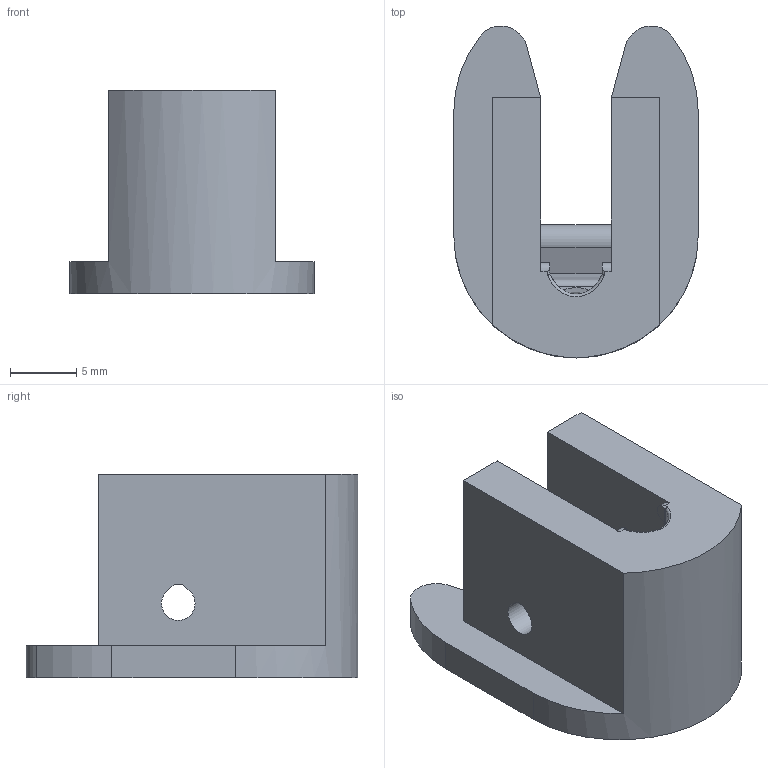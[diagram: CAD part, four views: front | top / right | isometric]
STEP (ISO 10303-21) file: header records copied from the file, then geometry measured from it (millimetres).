
FILE_DESCRIPTION(/* description */ ('STEP AP242','CAx-IF Rec.Pracs.---Representation and Presentation of Product Manufacturing Information (PMI)---4.0---2014-10-13','CAx-IF Rec.Pracs.---3D Tessellated Geometry---0.4---2014-09-14','2;1'),/* implementation_level */ '2;1');
FILE_NAME(/* name */ '61ff082423e0087fa9c7d425',/* time_stamp */ '2022-02-05T23:28:37+00:00',/* author */ (''),/* organization */ (''),/* preprocessor_version */ 'ST-DEVELOPER v18.101',/* originating_system */ ' ',/* authorisation */ ' ');
FILE_SCHEMA (('AP242_MANAGED_MODEL_BASED_3D_ENGINEERING_MIM_LF { 1 0 10303 442 1 1 4 }'));
Length unit declared in the file: metre
Products named in the file (1): Block
Bounding box: 18.41 x 25.01 x 15.37 mm (x, y, z)
Volume: 2735 mm3; surface area: 2149.3 mm2
Topology: 1 solids, 1 shells, 49 faces, 137 edges, 90 vertices
Faces by surface type: plane 26, cylinder 16, bspline 4, torus 3
Entity records: 1786 total; most frequent: CARTESIAN_POINT 512, ORIENTED_EDGE 272, DIRECTION 248, EDGE_CURVE 136, VERTEX_POINT 90, AXIS2_PLACEMENT_3D 86, LINE 76, VECTOR 76
